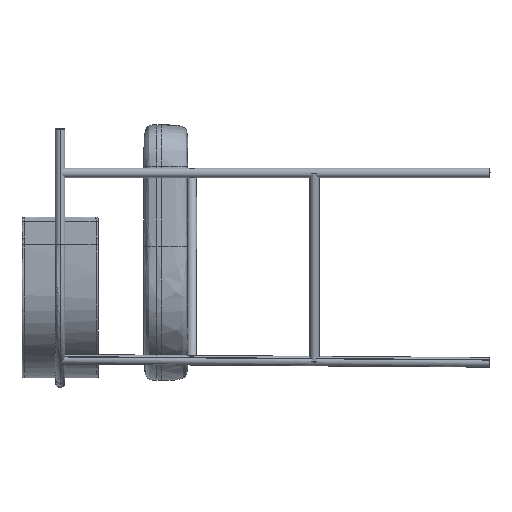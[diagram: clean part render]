
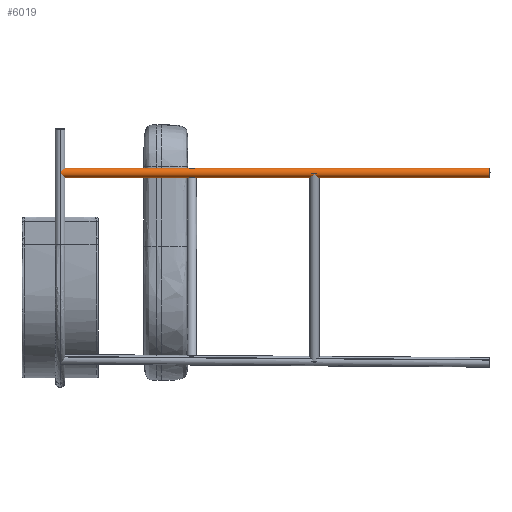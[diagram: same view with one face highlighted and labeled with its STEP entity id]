
A CAD part, left-side view. The second image highlights one B-rep face of the part: STEP entity #6019.
In plain terms, the highlighted cylindrical face has radius 11 mm (diameter 22 mm), a partial arc.
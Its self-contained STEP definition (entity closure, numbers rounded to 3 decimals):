
#140 = DIRECTION ( 'NONE',  ( 0., 0., 1. ) ) ;
#692 = DIRECTION ( 'NONE',  ( 0., 1., 0. ) ) ;
#760 = VERTEX_POINT ( 'NONE', #3803 ) ;
#1502 = AXIS2_PLACEMENT_3D ( 'NONE', #6868, #11992, #12938 ) ;
#1928 = CIRCLE ( 'NONE', #4736, 11. ) ;
#2332 = DIRECTION ( 'NONE',  ( 0., 1., 0. ) ) ;
#2411 = LINE ( 'NONE', #8594, #10765 ) ;
#2926 = EDGE_CURVE ( 'NONE', #760, #4442, #12218, .T. ) ;
#3073 = CARTESIAN_POINT ( 'NONE',  ( 0., 982.5, 11. ) ) ;
#3159 = ORIENTED_EDGE ( 'NONE', *, *, #9720, .T. ) ;
#3213 = CARTESIAN_POINT ( 'NONE',  ( 0., 982.5, 0. ) ) ;
#3803 = CARTESIAN_POINT ( 'NONE',  ( 0., 982.5, -11. ) ) ;
#3889 = CARTESIAN_POINT ( 'NONE',  ( 0., 0., 11. ) ) ;
#4100 = CARTESIAN_POINT ( 'NONE',  ( 0., 0., -11. ) ) ;
#4159 = VERTEX_POINT ( 'NONE', #4100 ) ;
#4442 = VERTEX_POINT ( 'NONE', #6201 ) ;
#4692 = DIRECTION ( 'NONE',  ( 0., 0., 1. ) ) ;
#4736 = AXIS2_PLACEMENT_3D ( 'NONE', #8785, #692, #4692 ) ;
#4778 = FACE_OUTER_BOUND ( 'NONE', #9491, .T. ) ;
#5517 = EDGE_CURVE ( 'NONE', #4442, #13335, #11097, .T. ) ;
#6019 = ADVANCED_FACE ( 'NONE', ( #4778 ), #6996, .T. ) ;
#6110 = DIRECTION ( 'NONE',  ( 0., -1., 0. ) ) ;
#6201 = CARTESIAN_POINT ( 'NONE',  ( 0., 982.5, 11. ) ) ;
#6868 = CARTESIAN_POINT ( 'NONE',  ( 0., 982.5, 0. ) ) ;
#6996 = CYLINDRICAL_SURFACE ( 'NONE', #1502, 11. ) ;
#7350 = EDGE_CURVE ( 'NONE', #4159, #13335, #1928, .T. ) ;
#7641 = ORIENTED_EDGE ( 'NONE', *, *, #5517, .F. ) ;
#7931 = VECTOR ( 'NONE', #6110, 1000. ) ;
#8594 = CARTESIAN_POINT ( 'NONE',  ( 0., 982.5, -11. ) ) ;
#8785 = CARTESIAN_POINT ( 'NONE',  ( 0., 0., 0. ) ) ;
#9119 = ORIENTED_EDGE ( 'NONE', *, *, #2926, .F. ) ;
#9491 = EDGE_LOOP ( 'NONE', ( #7641, #9119, #3159, #12482 ) ) ;
#9720 = EDGE_CURVE ( 'NONE', #760, #4159, #2411, .T. ) ;
#10765 = VECTOR ( 'NONE', #12726, 1000. ) ;
#11097 = LINE ( 'NONE', #3073, #7931 ) ;
#11366 = AXIS2_PLACEMENT_3D ( 'NONE', #3213, #2332, #140 ) ;
#11992 = DIRECTION ( 'NONE',  ( 0., -1., 0. ) ) ;
#12218 = CIRCLE ( 'NONE', #11366, 11. ) ;
#12482 = ORIENTED_EDGE ( 'NONE', *, *, #7350, .T. ) ;
#12726 = DIRECTION ( 'NONE',  ( 0., -1., 0. ) ) ;
#12938 = DIRECTION ( 'NONE',  ( 0., 0., -1. ) ) ;
#13335 = VERTEX_POINT ( 'NONE', #3889 ) ;
